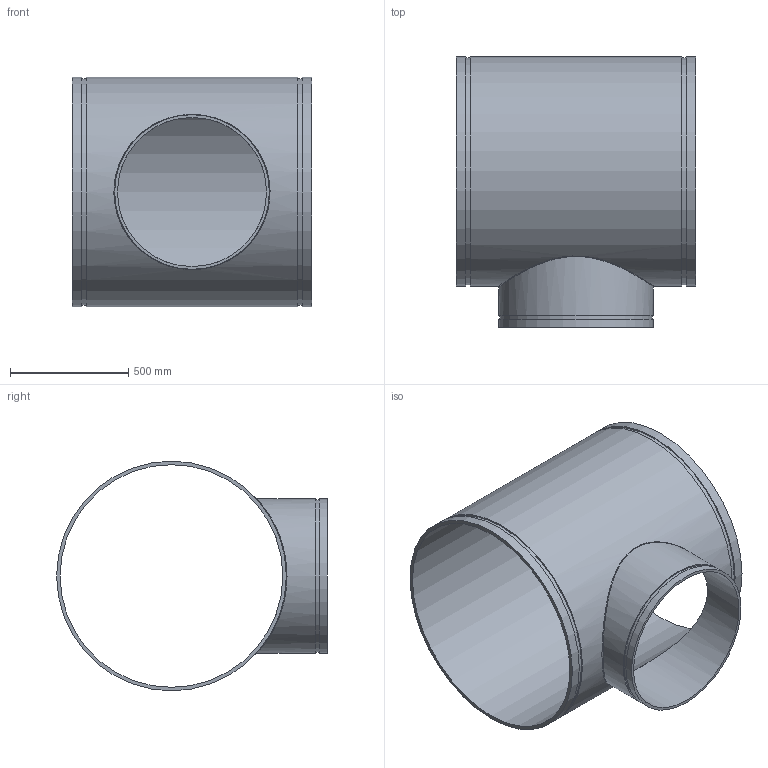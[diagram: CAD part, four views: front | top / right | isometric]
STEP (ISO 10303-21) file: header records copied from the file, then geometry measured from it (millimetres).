
FILE_DESCRIPTION(/* description */ ('VIC REDUCING TEE No 25-C','CAx-IF Rec.Pracs.---Representation and Presentation of Product Manufacturing Information (PMI)---4.0---2014-10-13'),/* implementation_level */ '2;1');
FILE_NAME(/* name */ 'C:\Users\Vjadhav\AppData\Roaming\Autodesk\ApplicationPlugins\Back Up\Victaulic_AWWA_Tee Reducing_No 25-C (DRG)\Victaulic_AWWA_Tee Reducing_No 25-C (DRG)_36.0x24.0 (900x600).stp',/* time_stamp */ '2020-08-18T18:19:42+06:00',/* author */ ('CORINNE GRAY'),/* organization */ ('Victaulic'),/* preprocessor_version */ 'ST-DEVELOPER v17.2',/* originating_system */ 'Autodesk Inventor 2019',/* authorisation */ '');
FILE_SCHEMA (('AP242_MANAGED_MODEL_BASED_3D_ENGINEERING_MIM_LF { 1 0 10303 442 1 1 4 }'));
Length unit declared in the file: inch
Products named in the file (1): 25C-36.0x24.0
Bounding box: 1016 x 1146.81 x 972.82 mm (x, y, z)
Volume: 44932444.3 mm3; surface area: 6594477.3 mm2
Topology: 1 solids, 1 shells, 20 faces, 44 edges, 33 vertices
Faces by surface type: cylinder 10, plane 9, bspline 1
Full cylindrical faces by diameter (mm): 631.444 x1, 645.312 x1, 655.32 x2, 943.356 x1, 961.39 x2, 972.82 x3
Entity records: 1157 total; most frequent: CARTESIAN_POINT 533, DIRECTION 135, ORIENTED_EDGE 90, AXIS2_PLACEMENT_3D 62, EDGE_CURVE 45, VERTEX_POINT 34, EDGE_LOOP 31, CIRCLE 29
